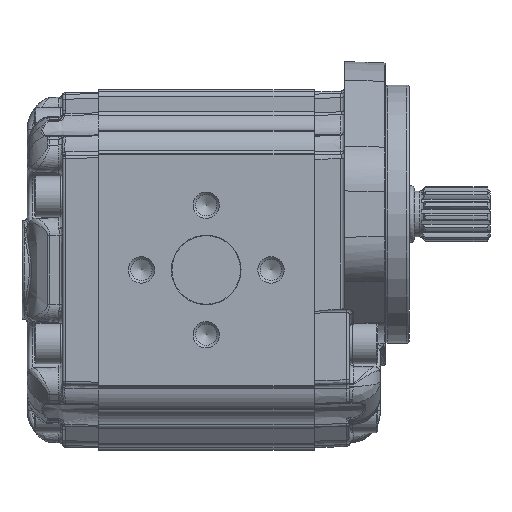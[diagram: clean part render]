
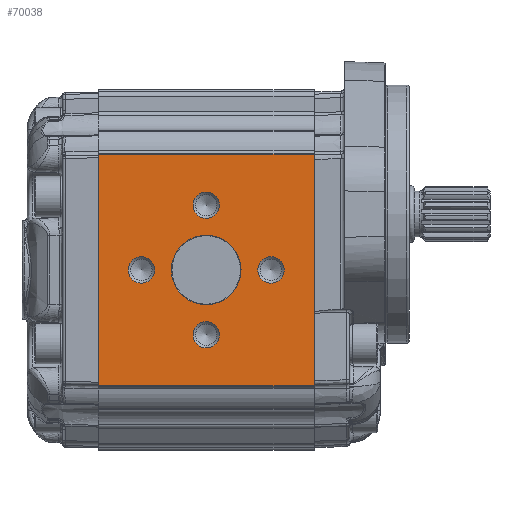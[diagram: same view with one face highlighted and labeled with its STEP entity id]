
A CAD part, left-side view. The second image highlights one B-rep face of the part: STEP entity #70038.
In plain terms, the highlighted planar face has unit normal (-1, 0, 0).
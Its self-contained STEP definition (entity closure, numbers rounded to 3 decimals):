
#8116=LINE('',#122494,#10130);
#8127=LINE('',#122579,#10141);
#8165=LINE('',#122687,#10179);
#8166=LINE('',#122688,#10180);
#10130=VECTOR('',#77578,1000.);
#10141=VECTOR('',#77653,1000.);
#10179=VECTOR('',#77779,1000.);
#10180=VECTOR('',#77780,1000.);
#16502=ORIENTED_EDGE('',*,*,#29295,.T.);
#16503=ORIENTED_EDGE('',*,*,#29296,.T.);
#16504=ORIENTED_EDGE('',*,*,#29297,.T.);
#16505=ORIENTED_EDGE('',*,*,#29298,.T.);
#16506=ORIENTED_EDGE('',*,*,#29299,.T.);
#16507=ORIENTED_EDGE('',*,*,#29199,.F.);
#16508=ORIENTED_EDGE('',*,*,#29300,.T.);
#16509=ORIENTED_EDGE('',*,*,#29241,.F.);
#16510=ORIENTED_EDGE('',*,*,#29301,.T.);
#29199=EDGE_CURVE('',#35924,#35925,#8116,.T.);
#29241=EDGE_CURVE('',#35966,#35967,#8127,.T.);
#29295=EDGE_CURVE('',#35988,#35988,#39783,.F.);
#29296=EDGE_CURVE('',#35989,#35989,#39784,.F.);
#29297=EDGE_CURVE('',#35990,#35990,#39785,.F.);
#29298=EDGE_CURVE('',#35991,#35991,#39786,.F.);
#29299=EDGE_CURVE('',#35992,#35992,#39787,.F.);
#29300=EDGE_CURVE('',#35924,#35967,#8165,.F.);
#29301=EDGE_CURVE('',#35966,#35925,#8166,.F.);
#35924=VERTEX_POINT('',#122493);
#35925=VERTEX_POINT('',#122495);
#35966=VERTEX_POINT('',#122578);
#35967=VERTEX_POINT('',#122580);
#35988=VERTEX_POINT('',#122678);
#35989=VERTEX_POINT('',#122680);
#35990=VERTEX_POINT('',#122682);
#35991=VERTEX_POINT('',#122684);
#35992=VERTEX_POINT('',#122686);
#39783=CIRCLE('',#73301,5.188);
#39784=CIRCLE('',#73302,5.188);
#39785=CIRCLE('',#73303,5.188);
#39786=CIRCLE('',#73304,5.188);
#39787=CIRCLE('',#73305,13.7);
#41124=EDGE_LOOP('',(#16502));
#41125=EDGE_LOOP('',(#16503));
#41126=EDGE_LOOP('',(#16504));
#41127=EDGE_LOOP('',(#16505));
#41128=EDGE_LOOP('',(#16506));
#41129=EDGE_LOOP('',(#16507,#16508,#16509,#16510));
#44483=FACE_BOUND('',#41124,.T.);
#44484=FACE_BOUND('',#41125,.T.);
#44485=FACE_BOUND('',#41126,.T.);
#44486=FACE_BOUND('',#41127,.T.);
#44487=FACE_BOUND('',#41128,.T.);
#44488=FACE_BOUND('',#41129,.T.);
#46924=PLANE('',#73300);
#70038=ADVANCED_FACE('',(#44483,#44484,#44485,#44486,#44487,#44488),#46924,
 .T.);
#73300=AXIS2_PLACEMENT_3D('',#122676,#77767,#77768);
#73301=AXIS2_PLACEMENT_3D('',#122677,#77769,#77770);
#73302=AXIS2_PLACEMENT_3D('',#122679,#77771,#77772);
#73303=AXIS2_PLACEMENT_3D('',#122681,#77773,#77774);
#73304=AXIS2_PLACEMENT_3D('',#122683,#77775,#77776);
#73305=AXIS2_PLACEMENT_3D('',#122685,#77777,#77778);
#77578=DIRECTION('',(0.,0.,1.));
#77653=DIRECTION('',(0.,0.,-1.));
#77767=DIRECTION('',(-1.,0.,0.));
#77768=DIRECTION('',(0.,0.,-1.));
#77769=DIRECTION('',(-1.,0.,0.));
#77770=DIRECTION('',(0.,0.,-1.));
#77771=DIRECTION('',(-1.,0.,0.));
#77772=DIRECTION('',(0.,0.,-1.));
#77773=DIRECTION('',(-1.,0.,0.));
#77774=DIRECTION('',(0.,0.,-1.));
#77775=DIRECTION('',(-1.,0.,0.));
#77776=DIRECTION('',(0.,0.,-1.));
#77777=DIRECTION('',(-1.,0.,0.));
#77778=DIRECTION('',(0.,0.,-1.));
#77779=DIRECTION('',(0.,1.,0.));
#77780=DIRECTION('',(0.,-1.,0.));
#122493=CARTESIAN_POINT('',(-57.5,85.,-45.5));
#122494=CARTESIAN_POINT('',(-57.5,85.,-84.819));
#122495=CARTESIAN_POINT('',(-57.5,85.,45.5));
#122578=CARTESIAN_POINT('',(-57.5,0.,45.5));
#122579=CARTESIAN_POINT('',(-57.5,0.,-44.978));
#122580=CARTESIAN_POINT('',(-57.5,0.,-45.5));
#122676=CARTESIAN_POINT('',(-57.5,-142.954,-84.819));
#122677=CARTESIAN_POINT('',(-57.5,42.5,25.5));
#122678=CARTESIAN_POINT('',(-57.5,42.5,20.312));
#122679=CARTESIAN_POINT('',(-57.5,68.,0.));
#122680=CARTESIAN_POINT('',(-57.5,68.,-5.188));
#122681=CARTESIAN_POINT('',(-57.5,42.5,-25.5));
#122682=CARTESIAN_POINT('',(-57.5,42.5,-30.688));
#122683=CARTESIAN_POINT('',(-57.5,17.,0.));
#122684=CARTESIAN_POINT('',(-57.5,17.,-5.188));
#122685=CARTESIAN_POINT('',(-57.5,42.5,0.));
#122686=CARTESIAN_POINT('',(-57.5,42.5,-13.7));
#122687=CARTESIAN_POINT('',(-57.5,-142.954,-45.5));
#122688=CARTESIAN_POINT('',(-57.5,-142.954,45.5));
